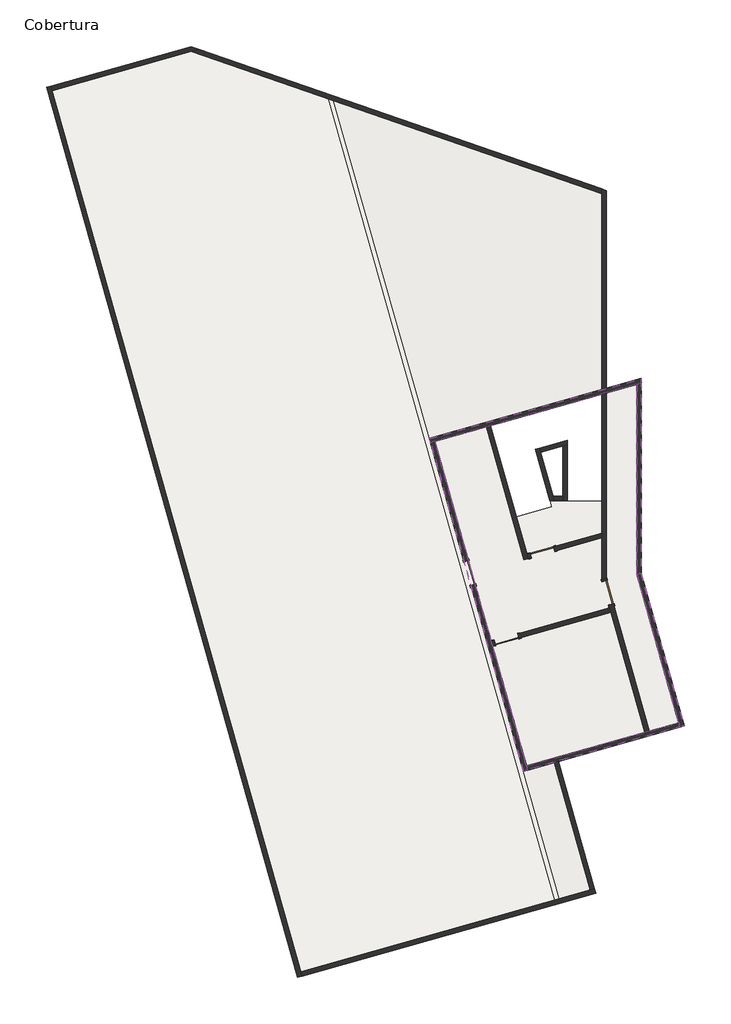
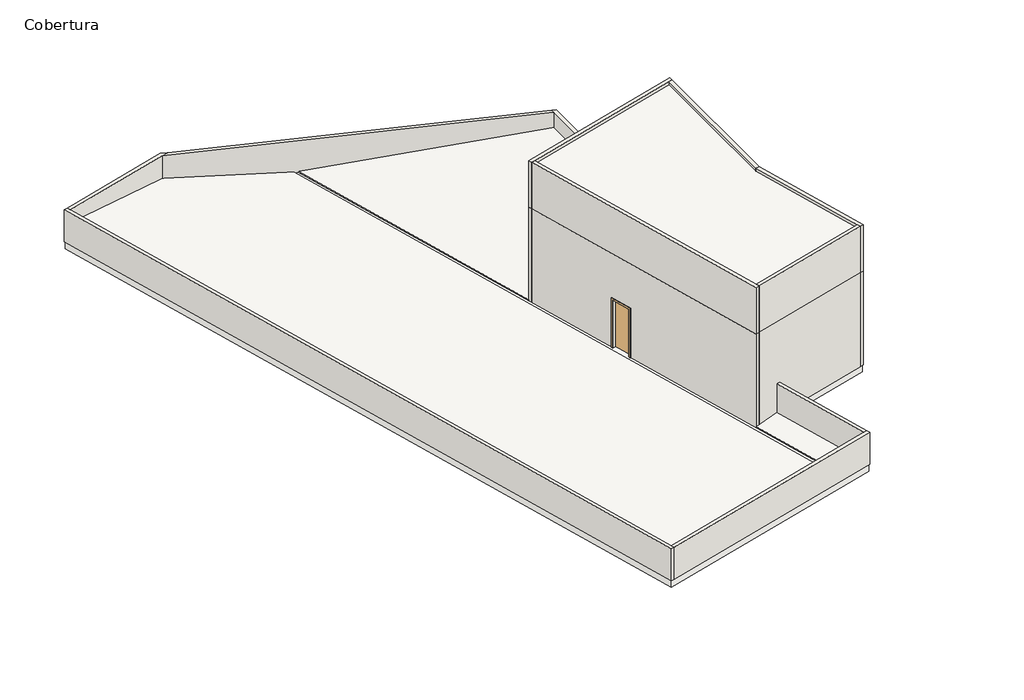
# One storey: 25 walls, 4 doors, 3 roofs, 3 slabs.
"""IFC4 building model written with IfcOpenShell, lengths in millimetres."""

from ifc_helpers import new_model, si_unit, frame, origin, place, context, project, spatial, polyline, outline, extrude, faceted_brep, transform, mapped, element, save
from components import p2_80cm_083652d6, p2_80cm_9d4be4ef

model = new_model("IFC4")

# Units and contexts
model_context = context("Model", 3, world=origin())
ifc_project = project(units=[si_unit("LENGTHUNIT", "METRE", prefix="MILLI")], contexts=[model_context])

# Site, building, storey
site = spatial("IfcSite", under=ifc_project)
building = spatial("IfcBuilding", under=site)
storey = spatial("IfcBuildingStorey", under=building, Name="Cobertura", Elevation=94250.0)

# Doors
placement = place(None, origin())
p2_80cm_shape = p2_80cm_083652d6(model_context)
element("IfcDoor", 1, ObjectType="M_Folha única1 : P2 - 80CM", at=placement, inside=storey, context=model_context, shape_type="MappedRepresentation", body=[
    mapped(p2_80cm_shape, transform((-78277.555224, 16259.790313, 94250.0), x_axis=(-0.9623628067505, -0.2717679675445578, 0.0), y_axis=(0.2717679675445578, -0.9623628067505, 0.0), z_axis=(0.0, 0.0, 1.0))),
])
element("IfcDoor", 2, ObjectType="M_Folha única1 : P2 - 80CM", at=placement, inside=storey, context=model_context, shape_type="MappedRepresentation", body=[
    mapped(p2_80cm_shape, transform((-74943.9153142, 17798.6865925, 94250.0), x_axis=(0.27176796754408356, -0.962362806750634, 0.0), y_axis=(0.962362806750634, 0.27176796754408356, 0.0), z_axis=(0.0, 0.0, 1.0))),
])
p2_80cm_2_shape = p2_80cm_9d4be4ef(model_context)
element("IfcDoor", 3, ObjectType="M_Folha única1 : P2 - 80CM", at=placement, inside=storey, context=model_context, shape_type="MappedRepresentation", body=[
    mapped(p2_80cm_2_shape, transform((-79492.6688389, 18446.8771661, 94250.0), x_axis=(-0.2717679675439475, 0.9623628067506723, 0.0), y_axis=(-0.9623628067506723, -0.2717679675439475, 0.0), z_axis=(0.0, 0.0, 1.0))),
])
element("IfcDoor", 4, ObjectType="M_Folha única1 : PCF1 - 80CM", at=placement, inside=storey, context=model_context, shape_type="MappedRepresentation", body=[
    mapped(p2_80cm_2_shape, transform((-77102.5079711, 19126.572132, 94250.0), x_axis=(-0.9623628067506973, -0.2717679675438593, 0.0), y_axis=(0.2717679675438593, -0.9623628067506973, 0.0), z_axis=(0.0, 0.0, 1.0))),
])

# Roofs
element("IfcRoof", 5, ObjectType="Telhado", at=placement, inside=storey, context=model_context, shape_type="Brep", body=[
    faceted_brep([(-93225.0846438, 34303.1678992, 95029.8444646), (-88662.6343714, 35591.588263, 94603.1649195), (-84142.9766622, 34025.9298053, 94250.0), (-76706.0542904, 7690.9001399, 94250.0), (-85044.8688208, 5336.0474162, 95029.8444646), (-88662.6343714, 35591.588263, 94653.3670111), (-93225.0846438, 34303.1678992, 95080.0465561), (-85044.8688208, 5336.0474162, 95080.0465561), (-76706.0542904, 7690.9001399, 94300.2020916), (-84142.9766622, 34025.9298053, 94300.2020916)], [[[0, 1, 2, 3, 4]], [[5, 6, 7, 8, 9]], [[2, 9, 8, 3]], [[6, 5, 1, 0]], [[7, 6, 0, 4]], [[5, 9, 2, 1]], [[8, 7, 4, 3]]]),
])
element("IfcRoof", 6, ObjectType="Telhado", at=placement, inside=storey, context=model_context, shape_type="Brep", body=[
    faceted_brep([(-83969.9931781, 33966.00645, 94250.0), (-75147.8282189, 30909.9128092, 94938.7308163), (-75147.8282189, 24477.4455734, 94780.6675713), (-80822.2190286, 22875.0170022, 94250.0), (-75147.8282189, 30909.9128092, 94988.9329079), (-83969.9931781, 33966.00645, 94300.2020916), (-80822.2190286, 22875.0170022, 94300.2020916), (-75147.8282189, 24477.4455734, 94830.8696629)], [[[0, 1, 2, 3]], [[4, 5, 6, 7]], [[3, 6, 5, 0]], [[5, 4, 1, 0]], [[7, 6, 3, 2]], [[4, 7, 2, 1]]]),
])
element("IfcRoof", 7, ObjectType="Telhado", at=placement, inside=storey, context=model_context, shape_type="SweptSolid", body=[
    extrude(outline(polyline([(1055.5370099, -145.2004225), (0.0, -50.2020916), (0.0, 0.0), (1055.5370099, -94.9983309), (1055.5370099, -145.2004225)])), frame((-76545.9211447, 7736.1211929, 94250.0), z_axis=(-0.2717679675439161, 0.9623628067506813, 0.0), x_axis=(0.9623628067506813, 0.2717679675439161, 0.0)), (0.0, 0.0, 1.0), 4349.266255),
])

# Slabs
element("IfcSlab", 8, ObjectType="TZ_Laje 30cm", at=placement, inside=storey, context=model_context, shape_type="SweptSolid", body=[
    extrude(outline(polyline([(-75369.6745845, 7933.2050117), (-85134.6461499, 5175.6104155), (-93385.5216445, 34392.9452283), (-88658.6666899, 35727.7929124), (-75017.8282189, 31002.4584964), (-75017.8282189, 24493.3749461), (-73867.8282189, 24818.1310157), (-73867.8282189, 18422.063233), (-72458.2582569, 13430.6077749), (-76592.4310301, 12263.1315132), (-75369.6745845, 7933.2050117)]), holes=[polyline([(-77952.9130698, 20291.1915783), (-76801.2963825, 20616.4041949), (-76858.5413412, 20819.1154254), (-75147.8282189, 20819.1154254), (-75147.8282189, 24343.0530162), (-78807.9060206, 23309.4595541), (-77952.9130698, 20291.1915783)])]), frame((0.0, 0.0, 93950.0), z_axis=(0.0, 0.0, 1.0), x_axis=(1.0, 0.0, 0.0)), (0.0, 0.0, 1.0), 300.0),
])
element("IfcSlab", 9, ObjectType="TZ_Laje 30cm", at=placement, inside=storey, context=model_context, shape_type="SweptSolid", body=[
    extrude(outline(polyline([(-73867.8282189, 24818.1310157), (-73867.8282189, 18422.063233), (-72458.2582569, 13430.6077749), (-77714.1004984, 11946.3758889), (-80796.4940885, 22861.4994543), (-73867.8282189, 24818.1310157)])), frame((0.0, 0.0, 98050.0), z_axis=(0.0, 0.0, 1.0), x_axis=(1.0, 0.0, 0.0)), (0.0, 0.0, 1.0), 300.0),
])
element("IfcSlab", 10, ObjectType="TZ_Laje 30cm", at=placement, inside=storey, context=model_context, shape_type="SweptSolid", body=[
    extrude(outline(polyline([(-73997.8282189, 24646.3352702), (-73997.8282189, 18404.0595103), (-72618.6952576, 13520.385104), (-77624.3231693, 12106.8128896), (-80636.0570878, 22771.7221252), (-73997.8282189, 24646.3352702)])), frame((0.0, 0.0, 99950.0), z_axis=(0.0, 0.0, 1.0), x_axis=(1.0, 0.0, 0.0)), (0.0, 0.0, 1.0), 300.0),
])

# Walls
element("IfcWall", 11, ObjectType="Básica .15 - Externa", at=placement, inside=storey, context=model_context, shape_type="Brep", body=[
    faceted_brep([(-85004.1036257, 5191.6929952, 94250.0), (-85044.8688208, 5336.0474162, 94250.0), (-93225.0846438, 34303.1678992, 94250.0), (-93265.849839, 34447.5223202, 94250.0), (-93265.849839, 34447.5223202, 95650.0), (-93225.0846438, 34303.1678992, 95650.0), (-85044.8688208, 5336.0474162, 95650.0), (-85004.1036257, 5191.6929952, 95650.0), (-85148.4580467, 5150.9278, 94250.0), (-85148.4580467, 5150.9278, 95650.0), (-93410.20426, 34406.7571251, 95650.0), (-93410.20426, 34406.7571251, 94250.0)], [[[0, 1, 2, 3, 4, 5, 6, 7]], [[8, 9, 10, 11]], [[3, 2, 1, 0, 8, 11]], [[7, 6, 5, 4, 10, 9]], [[4, 3, 11, 10]], [[0, 7, 9, 8]]]),
])
element("IfcWall", 12, ObjectType="Básica .15 - Externa", at=placement, inside=storey, context=model_context, shape_type="Brep", body=[
    faceted_brep([(-93225.0846438, 34303.1678992, 94250.0), (-88662.6343714, 35591.588263, 94250.0), (-88410.1801146, 35662.8804823, 94250.0), (-88410.1801146, 35662.8804823, 95650.0), (-88662.6343714, 35591.588263, 95650.0), (-93225.0846438, 34303.1678992, 95650.0), (-93265.849839, 34447.5223202, 94250.0), (-93265.849839, 34447.5223202, 95650.0), (-88658.0562773, 35748.7474739, 95650.0), (-88658.0562773, 35748.7474739, 94250.0)], [[[0, 1, 2, 3, 4, 5]], [[6, 7, 8, 9]], [[2, 1, 0, 6, 9]], [[5, 4, 3, 8, 7]], [[0, 5, 7, 6]], [[3, 2, 9, 8]]]),
])
element("IfcWall", 13, ObjectType="Básica .15 - Externa", at=placement, inside=storey, context=model_context, shape_type="Brep", body=[
    faceted_brep([(-75147.8282189, 31068.6579216, 94250.0), (-75147.8282189, 30909.9128092, 94250.0), (-75147.8282189, 24477.4455734, 94250.0), (-75147.8282189, 24477.4455734, 95650.0), (-75147.8282189, 30909.9128092, 95650.0), (-75147.8282189, 31068.6579216, 95650.0), (-74997.8282189, 31016.6962944, 94250.0), (-74997.8282189, 31016.6962944, 95650.0), (-74997.8282189, 24519.8050607, 95650.0), (-74997.8282189, 24519.8050607, 94250.0)], [[[0, 1, 2, 3, 4, 5]], [[6, 7, 8, 9]], [[2, 1, 0, 6, 9]], [[5, 4, 3, 8, 7]], [[0, 5, 7, 6]], [[3, 2, 9, 8]]]),
])
element("IfcWall", 14, ObjectType="Básica .15 - Externa", at=placement, inside=storey, context=model_context, shape_type="Brep", body=[
    faceted_brep([(-85004.1036257, 5191.6929952, 94250.0), (-75344.9919691, 7919.3931149, 94250.0), (-75344.9919691, 7919.3931149, 95650.0), (-85004.1036257, 5191.6929952, 95650.0), (-85044.8688208, 5336.0474162, 94250.0), (-85044.8688208, 5336.0474162, 95650.0), (-75530.1115852, 8022.9823408, 95650.0), (-75385.7571642, 8063.7475359, 95650.0), (-75385.7571642, 8063.7475359, 94250.0), (-75530.1115852, 8022.9823408, 94250.0)], [[[0, 1, 2, 3]], [[4, 5, 6, 7, 8, 9]], [[1, 0, 4, 9, 8]], [[3, 2, 7, 6, 5]], [[0, 3, 5, 4]], [[2, 1, 8, 7]]]),
])
element("IfcWall", 15, ObjectType="Básica .15 - Externa", at=placement, inside=storey, context=model_context, shape_type="SweptSolid", body=[
    extrude(outline(polyline([(-76567.7484146, 12249.3196164), (-75385.7571642, 8063.7475359), (-75530.1115852, 8022.9823408), (-76712.1028356, 12208.5544213), (-76567.7484146, 12249.3196164)])), frame((0.0, 0.0, 94250.0), z_axis=(0.0, 0.0, 1.0), x_axis=(1.0, 0.0, 0.0)), (0.0, 0.0, 1.0), 1400.0),
])
element("IfcWall", 16, ObjectType="Básica .15 - Externa", at=placement, inside=storey, context=model_context, shape_type="Brep", body=[
    faceted_brep([(-80780.4115088, 22730.9569301, 94250.0), (-80636.0570878, 22771.7221252, 94250.0), (-78945.8042144, 23249.0437599, 94250.0), (-78801.4497459, 23289.8089684, 94250.0), (-75147.8282189, 24321.5792006, 94250.0), (-74997.8282189, 24363.938688, 94250.0), (-73997.8282189, 24646.3352702, 94250.0), (-73847.8282189, 24688.6947576, 94250.0), (-73847.8282189, 24688.6947576, 98350.0), (-73997.8282189, 24646.3352702, 98350.0), (-74997.8282189, 24363.938688, 98350.0), (-75147.8282189, 24321.5792006, 98350.0), (-78801.4497459, 23289.8089684, 98350.0), (-78945.8042144, 23249.0437599, 98350.0), (-80636.0570878, 22771.7221252, 98350.0), (-80780.4115088, 22730.9569301, 98350.0), (-80821.176704, 22875.3113511, 94250.0), (-80821.176704, 22875.3113511, 98350.0), (-73847.8282189, 24844.5611304, 98350.0), (-73847.8282189, 24844.5611304, 94250.0), (-74997.8282189, 24519.8050607, 94250.0), (-75147.8282189, 24477.4455734, 94250.0)], [[[0, 1, 2, 3, 4, 5, 6, 7, 8, 9, 10, 11, 12, 13, 14, 15]], [[16, 17, 18, 19, 20, 21]], [[7, 6, 5, 4, 3, 2, 1, 0, 16, 21, 20, 19]], [[15, 14, 13, 12, 11, 10, 9, 8, 18, 17]], [[0, 15, 17, 16]], [[8, 7, 19, 18]]]),
])
element("IfcWall", 17, ObjectType="Básica .15 - Externa", at=placement, inside=storey, context=model_context, shape_type="Brep", body=[
    faceted_brep([(-80636.0570878, 22771.7221252, 98350.0), (-78779.1192249, 16196.0835398, 98350.0), (-78738.3540298, 16051.7291188, 98350.0), (-77624.3231693, 12106.8128896, 98350.0), (-77583.5579742, 11962.4584685, 98350.0), (-77583.5579742, 11962.4584685, 94250.0), (-77624.3231693, 12106.8128896, 94250.0), (-78738.3540298, 16051.7291188, 94250.0), (-78779.1192249, 16196.0835398, 94250.0), (-79311.7844413, 18082.314641, 94250.0), (-79311.7844413, 18082.314641, 96350.0), (-79529.1988154, 18852.2048864, 96350.0), (-79529.1988154, 18852.2048864, 94250.0), (-80636.0570878, 22771.7221252, 94250.0), (-77727.9123952, 11921.6932734, 98350.0), (-80780.4115088, 22730.9569301, 98350.0), (-80780.4115088, 22730.9569301, 94250.0), (-79673.5532364, 18811.4396913, 94250.0), (-79673.5532364, 18811.4396913, 96350.0), (-79456.1388623, 18041.5494459, 96350.0), (-79456.1388623, 18041.5494459, 94250.0), (-77727.9123952, 11921.6932734, 94250.0)], [[[0, 1, 2, 3, 4, 5, 6, 7, 8, 9, 10, 11, 12, 13]], [[14, 15, 16, 17, 18, 19, 20, 21]], [[12, 17, 16, 13]], [[20, 9, 8, 7, 6, 5, 21]], [[4, 3, 2, 1, 0, 15, 14]], [[18, 17, 12, 11]], [[19, 18, 11, 10]], [[20, 19, 10, 9]], [[0, 13, 16, 15]], [[5, 4, 14, 21]]]),
])
element("IfcWall", 18, ObjectType="Básica .15 -  Interna", at=placement, inside=storey, context=model_context, shape_type="Brep", body=[
    faceted_brep([(-78945.8042144, 23249.0437599, 94250.0), (-77707.5441403, 18877.7787993, 94250.0), (-77707.5441403, 18877.7787993, 98350.0), (-78945.8042144, 23249.0437599, 98350.0), (-78801.4497459, 23289.8089684, 94250.0), (-78801.4497459, 23289.8089684, 98350.0), (-77604.0719721, 19062.8653587, 98350.0), (-77563.1896718, 18918.5440078, 98350.0), (-77563.1896718, 18918.5440078, 94250.0), (-77604.0719721, 19062.8653587, 94250.0)], [[[0, 1, 2, 3]], [[4, 5, 6, 7, 8, 9]], [[1, 0, 4, 9, 8]], [[3, 2, 7, 6, 5]], [[2, 1, 8, 7]], [[0, 3, 5, 4]]]),
])
element("IfcWall", 19, ObjectType="Básica .15 -  Interna", at=placement, inside=storey, context=model_context, shape_type="Brep", body=[
    faceted_brep([(-77507.8356914, 19090.0421555, 96350.0), (-77507.8356914, 19090.0421555, 94250.0), (-77604.0719721, 19062.8653587, 94250.0), (-77604.0719721, 19062.8653587, 98350.0), (-75147.8282189, 19756.5001999, 98350.0), (-75147.8282189, 19756.5001999, 94250.0), (-76737.945446, 19307.4565295, 94250.0), (-76737.945446, 19307.4565295, 96350.0), (-77563.1896718, 18918.5440078, 94250.0), (-77467.0704963, 18945.6877345, 94250.0), (-77467.0704963, 18945.6877345, 96350.0), (-76697.1802509, 19163.1021085, 96350.0), (-76697.1802509, 19163.1021085, 94250.0), (-75147.8282189, 19600.6338271, 94250.0), (-75147.8282189, 19600.6338271, 98350.0), (-77563.1896718, 18918.5440078, 98350.0)], [[[0, 1, 2, 3, 4, 5, 6, 7]], [[8, 9, 10, 11, 12, 13, 14, 15]], [[6, 5, 13, 12]], [[2, 1, 9, 8]], [[4, 3, 15, 14]], [[10, 9, 1, 0]], [[11, 10, 0, 7]], [[12, 11, 7, 6]], [[3, 2, 8, 15]], [[5, 4, 14, 13]]]),
])
element("IfcWall", 20, ObjectType="Básica Casa de Máquinas", at=placement, inside=storey, context=model_context, shape_type="Brep", body=[
    faceted_brep([(-75147.8282189, 24321.5792006, 98350.0), (-75147.8282189, 24321.5792006, 94250.0), (-75147.8282189, 19756.5001999, 94250.0), (-75147.8282189, 19600.6338271, 94250.0), (-75147.8282189, 18244.7958096, 94250.0), (-75147.8282189, 18244.7958096, 98350.0), (-75147.8282189, 19600.6338271, 98350.0), (-75147.8282189, 19756.5001999, 98350.0), (-74997.8282189, 24363.938688, 94250.0), (-74997.8282189, 24363.938688, 98350.0), (-74997.8282189, 18265.5693358, 98350.0), (-74997.8282189, 18265.5693358, 94250.0)], [[[0, 1, 2, 3, 4, 5, 6, 7]], [[8, 9, 10, 11]], [[4, 3, 2, 1, 8, 11]], [[0, 7, 6, 5, 10, 9]], [[5, 4, 11, 10]], [[0, 9, 8, 1]]]),
])
element("IfcWall", 21, ObjectType="Básica Casa de Máquinas", at=placement, inside=storey, context=model_context, shape_type="Brep", body=[
    faceted_brep([(-74907.3853377, 17393.3588722, 96350.0), (-74907.3853377, 17393.3588722, 94250.0), (-74880.208541, 17297.1225916, 94250.0), (-74839.4433458, 17152.7681705, 94250.0), (-73725.4124853, 13207.8519413, 94250.0), (-73725.4124853, 13207.8519413, 98350.0), (-74839.4433458, 17152.7681705, 98350.0), (-74880.208541, 17297.1225916, 98350.0), (-75147.8282189, 18244.7958096, 98350.0), (-75147.8282189, 18244.7958096, 94250.0), (-75124.7997118, 18163.2491176, 94250.0), (-75124.7997118, 18163.2491176, 96350.0), (-73581.0580643, 13248.6171365, 94250.0), (-74763.0309167, 17434.1240674, 94250.0), (-74763.0309167, 17434.1240674, 96350.0), (-74980.4452908, 18204.0143128, 96350.0), (-74980.4452908, 18204.0143128, 94250.0), (-74997.8282189, 18265.5693358, 94250.0), (-74997.8282189, 18265.5693358, 98350.0), (-73581.0580643, 13248.6171365, 98350.0)], [[[0, 1, 2, 3, 4, 5, 6, 7, 8, 9, 10, 11]], [[12, 13, 14, 15, 16, 17, 18, 19]], [[10, 9, 17, 16]], [[4, 3, 2, 1, 13, 12]], [[8, 7, 6, 5, 19, 18]], [[9, 8, 18, 17]], [[5, 4, 12, 19]], [[14, 13, 1, 0]], [[15, 14, 0, 11]], [[16, 15, 11, 10]]]),
])
element("IfcWall", 22, ObjectType="Básica .15 -  Interna", at=placement, inside=storey, context=model_context, shape_type="SweptSolid", body=[
    extrude(outline(polyline([(-150.0, -4100.0), (-4201.3937744, -4100.0), (-4201.3937744, 0.0), (-4101.3937744, 0.0), (-4101.3937744, -2100.0), (-3301.3937744, -2100.0), (-3301.3937744, 0.0), (-150.0, 0.0), (-150.0, -4100.0)])), frame((-74695.0889248, 17193.5333657, 94250.0), z_axis=(-0.2717679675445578, 0.9623628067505, 0.0), x_axis=(0.9623628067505, 0.2717679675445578, 0.0)), (0.0, 0.0, 1.0), 150.0),
])
element("IfcWall", 23, ObjectType="Básica .15 - Externa", at=placement, inside=storey, context=model_context, shape_type="Brep", body=[
    faceted_brep([(-72618.6952576, 13520.385104, 94250.0), (-73581.0580643, 13248.6171365, 94250.0), (-73725.4124853, 13207.8519413, 94250.0), (-77624.3231693, 12106.8128896, 94250.0), (-77624.3231693, 12106.8128896, 98350.0), (-73725.4124853, 13207.8519413, 98350.0), (-73581.0580643, 13248.6171365, 98350.0), (-72618.6952576, 13520.385104, 98350.0), (-72577.9300624, 13376.030683, 94250.0), (-72577.9300624, 13376.030683, 98350.0), (-77583.5579742, 11962.4584685, 98350.0), (-77583.5579742, 11962.4584685, 94250.0), (-76712.1028356, 12208.5544213, 94250.0), (-76567.7484146, 12249.3196164, 94250.0)], [[[0, 1, 2, 3, 4, 5, 6, 7]], [[8, 9, 10, 11, 12, 13]], [[3, 2, 1, 0, 8, 13, 12, 11]], [[7, 6, 5, 4, 10, 9]], [[4, 3, 11, 10]], [[0, 7, 9, 8]]]),
])
element("IfcWall", 24, ObjectType="Básica .15 - Externa", at=placement, inside=storey, context=model_context, shape_type="SweptSolid", body=[
    extrude(outline(polyline([(-75147.8282189, 30909.9128092), (-88662.6343714, 35591.588263), (-88410.1801146, 35662.8804823), (-75147.8282189, 31068.6579216), (-75147.8282189, 30909.9128092)])), frame((0.0, 0.0, 94250.0), z_axis=(0.0, 0.0, 1.0), x_axis=(1.0, 0.0, 0.0)), (0.0, 0.0, 1.0), 1400.0),
])
element("IfcWall", 25, ObjectType="Básica .15 -  Interna", at=placement, inside=storey, context=model_context, shape_type="Brep", body=[
    faceted_brep([(-76703.5854218, 20819.1154254, 94250.0), (-76745.9449092, 20969.1154254, 94250.0), (-77152.5348621, 22408.8989724, 94250.0), (-77193.3000572, 22553.2533934, 94250.0), (-77193.3000572, 22553.2533934, 97150.0), (-77152.5348621, 22408.8989724, 97150.0), (-76745.9449092, 20969.1154254, 97150.0), (-76703.5854218, 20819.1154254, 97150.0), (-76859.4517946, 20819.1154254, 94250.0), (-76859.4517946, 20819.1154254, 97150.0), (-77337.6544782, 22512.4881983, 97150.0), (-77337.6544782, 22512.4881983, 94250.0)], [[[0, 1, 2, 3, 4, 5, 6, 7]], [[8, 9, 10, 11]], [[3, 2, 1, 0, 8, 11]], [[7, 6, 5, 4, 10, 9]], [[4, 3, 11, 10]], [[0, 7, 9, 8]]]),
])
element("IfcWall", 26, ObjectType="Básica .15 -  Interna", at=placement, inside=storey, context=model_context, shape_type="Brep", body=[
    faceted_brep([(-77152.5348621, 22408.8989724, 94250.0), (-76425.2862396, 22614.2714979, 94250.0), (-76275.2862396, 22656.6309852, 94250.0), (-76275.2862396, 22656.6309852, 97150.0), (-76425.2862396, 22614.2714979, 97150.0), (-77152.5348621, 22408.8989724, 97150.0), (-77193.3000572, 22553.2533934, 94250.0), (-77193.3000572, 22553.2533934, 97150.0), (-76275.2862396, 22812.497358, 97150.0), (-76275.2862396, 22812.497358, 94250.0)], [[[0, 1, 2, 3, 4, 5]], [[6, 7, 8, 9]], [[2, 1, 0, 6, 9]], [[5, 4, 3, 8, 7]], [[0, 5, 7, 6]], [[3, 2, 9, 8]]]),
])
element("IfcWall", 27, ObjectType="Básica .15 -  Interna", at=placement, inside=storey, context=model_context, shape_type="Brep", body=[
    faceted_brep([(-76425.2862396, 22614.2714979, 94250.0), (-76425.2862396, 20969.1154254, 94250.0), (-76425.2862396, 20819.1154254, 94250.0), (-76425.2862396, 20819.1154254, 97150.0), (-76425.2862396, 20969.1154254, 97150.0), (-76425.2862396, 22614.2714979, 97150.0), (-76275.2862396, 22656.6309852, 94250.0), (-76275.2862396, 22656.6309852, 97150.0), (-76275.2862396, 20819.1154254, 97150.0), (-76275.2862396, 20819.1154254, 94250.0)], [[[0, 1, 2, 3, 4, 5]], [[6, 7, 8, 9]], [[2, 1, 0, 6, 9]], [[5, 4, 3, 8, 7]], [[0, 5, 7, 6]], [[3, 2, 9, 8]]]),
])
element("IfcWall", 28, ObjectType="Básica .15 -  Interna", at=placement, inside=storey, context=model_context, shape_type="SweptSolid", body=[
    extrude(outline(polyline([(-76745.9449092, 20969.1154254), (-76425.2862396, 20969.1154254), (-76425.2862396, 20819.1154254), (-76703.5854218, 20819.1154254), (-76745.9449092, 20969.1154254)])), frame((0.0, 0.0, 94250.0), z_axis=(0.0, 0.0, 1.0), x_axis=(1.0, 0.0, 0.0)), (0.0, 0.0, 1.0), 2900.0),
])
element("IfcWall", 29, ObjectType="Básica .15 - Externa", at=placement, inside=storey, context=model_context, shape_type="Brep", body=[
    faceted_brep([(-73997.8282189, 18404.0595103, 94250.0), (-72618.6952576, 13520.385104, 94250.0), (-72577.9300624, 13376.030683, 94250.0), (-72577.9300624, 13376.030683, 98350.0), (-72618.6952576, 13520.385104, 98350.0), (-73997.8282189, 18404.0595103, 98350.0), (-73847.8282189, 18424.8330365, 94250.0), (-73847.8282189, 18424.8330365, 98350.0), (-72433.5756414, 13416.7958781, 98350.0), (-72433.5756414, 13416.7958781, 94250.0)], [[[0, 1, 2, 3, 4, 5]], [[6, 7, 8, 9]], [[2, 1, 0, 6, 9]], [[5, 4, 3, 8, 7]], [[0, 5, 7, 6]], [[3, 2, 9, 8]]]),
])
element("IfcWall", 30, ObjectType="Básica .15 - Externa", at=placement, inside=storey, context=model_context, shape_type="SweptSolid", body=[
    extrude(outline(polyline([(-73997.8282189, 18404.0595103), (-73997.8282189, 24646.3352702), (-73847.8282189, 24688.6947576), (-73847.8282189, 18424.8330365), (-73997.8282189, 18404.0595103)])), frame((0.0, 0.0, 94250.0), z_axis=(0.0, 0.0, 1.0), x_axis=(1.0, 0.0, 0.0)), (0.0, 0.0, 1.0), 4100.0),
])
element("IfcWall", 31, ObjectType="Básica .15 - Externa", at=placement, inside=storey, context=model_context, shape_type="Brep", body=[
    faceted_brep([(-80780.4115088, 22730.9569301, 98350.0), (-80636.0570878, 22771.7221252, 98350.0), (-73997.8282189, 24646.3352702, 98350.0), (-73847.8282189, 24688.6947576, 98350.0), (-73847.8282189, 24688.6947576, 100390.0), (-73997.8282189, 24646.3352702, 100390.0), (-80636.0570878, 22771.7221252, 100390.0), (-80780.4115088, 22730.9569301, 100390.0), (-80821.176704, 22875.3113511, 98350.0), (-80821.176704, 22875.3113511, 100390.0), (-73847.8282189, 24844.5611304, 100390.0), (-73847.8282189, 24844.5611304, 98350.0)], [[[0, 1, 2, 3, 4, 5, 6, 7]], [[8, 9, 10, 11]], [[3, 2, 1, 0, 8, 11]], [[7, 6, 5, 4, 10, 9]], [[4, 3, 11, 10]], [[0, 7, 9, 8]]]),
])
element("IfcWall", 32, ObjectType="Básica .15 - Externa", at=placement, inside=storey, context=model_context, shape_type="Brep", body=[
    faceted_brep([(-77583.5579742, 11962.4584685, 98350.0), (-77624.3231693, 12106.8128896, 98350.0), (-80636.0570878, 22771.7221252, 98350.0), (-80636.0570878, 22771.7221252, 100390.0), (-77624.3231693, 12106.8128896, 100390.0), (-77583.5579742, 11962.4584685, 100390.0), (-77727.9123952, 11921.6932734, 98350.0), (-77727.9123952, 11921.6932734, 100390.0), (-80780.4115088, 22730.9569301, 100390.0), (-80780.4115088, 22730.9569301, 98350.0)], [[[0, 1, 2, 3, 4, 5]], [[6, 7, 8, 9]], [[2, 1, 0, 6, 9]], [[5, 4, 3, 8, 7]], [[3, 2, 9, 8]], [[0, 5, 7, 6]]]),
])
element("IfcWall", 33, ObjectType="Básica .15 - Externa", at=placement, inside=storey, context=model_context, shape_type="SweptSolid", body=[
    extrude(outline(polyline([(-77624.3231693, 12106.8128896), (-72618.6952576, 13520.385104), (-72577.9300624, 13376.030683), (-77583.5579742, 11962.4584685), (-77624.3231693, 12106.8128896)])), frame((0.0, 0.0, 98350.0), z_axis=(0.0, 0.0, 1.0), x_axis=(1.0, 0.0, 0.0)), (0.0, 0.0, 1.0), 2040.0),
])
element("IfcWall", 34, ObjectType="Básica .15 - Externa", at=placement, inside=storey, context=model_context, shape_type="Brep", body=[
    faceted_brep([(-73997.8282189, 18404.0595103, 98350.0), (-72618.6952576, 13520.385104, 98350.0), (-72577.9300624, 13376.030683, 98350.0), (-72577.9300624, 13376.030683, 100390.0), (-72618.6952576, 13520.385104, 100390.0), (-73997.8282189, 18404.0595103, 100390.0), (-73847.8282189, 18424.8330365, 98350.0), (-73847.8282189, 18424.8330365, 100390.0), (-72433.5756414, 13416.7958781, 100390.0), (-72433.5756414, 13416.7958781, 98350.0)], [[[0, 1, 2, 3, 4, 5]], [[6, 7, 8, 9]], [[2, 1, 0, 6, 9]], [[5, 4, 3, 8, 7]], [[0, 5, 7, 6]], [[3, 2, 9, 8]]]),
])
element("IfcWall", 35, ObjectType="Básica .15 - Externa", at=placement, inside=storey, context=model_context, shape_type="SweptSolid", body=[
    extrude(outline(polyline([(-73997.8282189, 18404.0595103), (-73997.8282189, 24646.3352702), (-73847.8282189, 24688.6947576), (-73847.8282189, 18424.8330365), (-73997.8282189, 18404.0595103)])), frame((0.0, 0.0, 98350.0), z_axis=(0.0, 0.0, 1.0), x_axis=(1.0, 0.0, 0.0)), (0.0, 0.0, 1.0), 2040.0),
])

save(model, "model.ifc")
